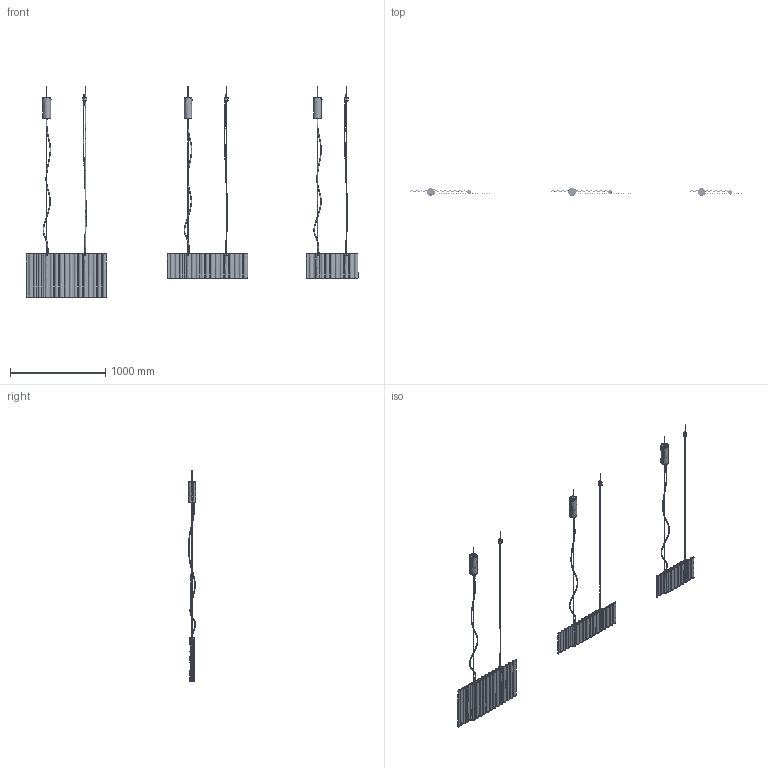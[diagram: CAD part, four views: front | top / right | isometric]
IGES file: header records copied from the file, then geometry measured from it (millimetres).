
Global section: file name: C:\Users\l.marzoli\Desktop\3D_2024\x-web\SIPARIO-lamp\3D_SIPARIO-lamp.igs; native system: Rhinoceros ( Aug 11 2021 ); preprocessor: Trout Lake IGES 012 Aug 11 2021; date: 240430.095824; units: millimetre
Bounding box: 3478.51 x 80 x 2205.57 mm (x, y, z)
Surface area: 3901327.7 mm2 (no closed solid volume)
Topology: 0 solids, 0 shells, 2907 faces, 19522 edges, 19353 vertices
Faces by surface type: bspline 2907
